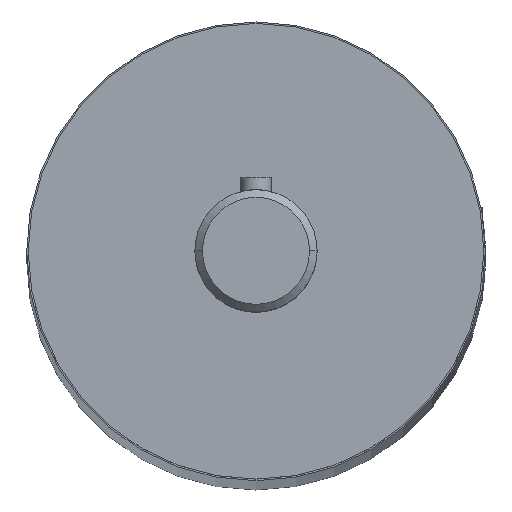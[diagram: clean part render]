
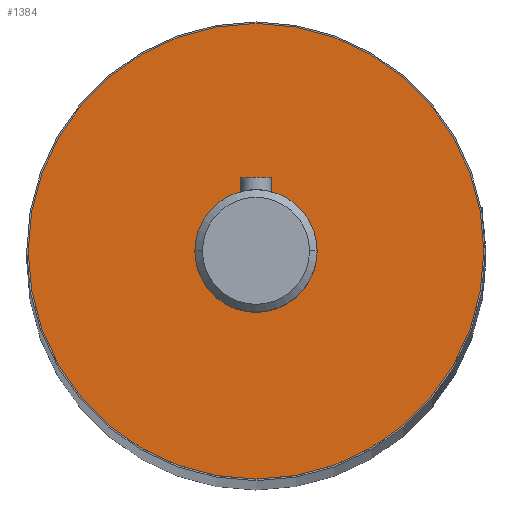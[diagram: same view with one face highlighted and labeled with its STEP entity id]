
A CAD part, top view. The second image highlights one B-rep face of the part: STEP entity #1384.
In plain terms, the highlighted planar face has unit normal (0, 0, 1).
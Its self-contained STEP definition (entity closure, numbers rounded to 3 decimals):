
#61 = DIRECTION ( 'NONE',  ( 0., 0., 1. ) ) ;
#94 = ORIENTED_EDGE ( 'NONE', *, *, #1093, .T. ) ;
#229 = AXIS2_PLACEMENT_3D ( 'NONE', #1827, #1538, #351 ) ;
#301 = CIRCLE ( 'NONE', #1404, 14.9 ) ;
#306 = PLANE ( 'NONE',  #229 ) ;
#344 = EDGE_CURVE ( 'NONE', #1297, #1131, #1405, .T. ) ;
#351 = DIRECTION ( 'NONE',  ( 1., 0., 0. ) ) ;
#353 = AXIS2_PLACEMENT_3D ( 'NONE', #1381, #648, #1536 ) ;
#355 = CARTESIAN_POINT ( 'NONE',  ( 14.9, 0., 177.5 ) ) ;
#366 = CARTESIAN_POINT ( 'NONE',  ( -14.9, 0., 177.5 ) ) ;
#470 = DIRECTION ( 'NONE',  ( 1., 0., 0. ) ) ;
#576 = ORIENTED_EDGE ( 'NONE', *, *, #344, .F. ) ;
#584 = VERTEX_POINT ( 'NONE', #366 ) ;
#648 = DIRECTION ( 'NONE',  ( 0., 0., 1. ) ) ;
#680 = CIRCLE ( 'NONE', #835, 14.9 ) ;
#709 = CARTESIAN_POINT ( 'NONE',  ( 0., 0., 177.5 ) ) ;
#717 = ORIENTED_EDGE ( 'NONE', *, *, #792, .T. ) ;
#771 = DIRECTION ( 'NONE',  ( 0., 0., 1. ) ) ;
#792 = EDGE_CURVE ( 'NONE', #912, #584, #680, .T. ) ;
#816 = DIRECTION ( 'NONE',  ( 1., 0., 0. ) ) ;
#835 = AXIS2_PLACEMENT_3D ( 'NONE', #923, #771, #470 ) ;
#912 = VERTEX_POINT ( 'NONE', #355 ) ;
#923 = CARTESIAN_POINT ( 'NONE',  ( 0., 0., 177.5 ) ) ;
#986 = ORIENTED_EDGE ( 'NONE', *, *, #1793, .F. ) ;
#1093 = EDGE_CURVE ( 'NONE', #584, #912, #301, .T. ) ;
#1131 = VERTEX_POINT ( 'NONE', #1183 ) ;
#1183 = CARTESIAN_POINT ( 'NONE',  ( 4., 0., 177.5 ) ) ;
#1297 = VERTEX_POINT ( 'NONE', #1804 ) ;
#1315 = DIRECTION ( 'NONE',  ( 0., 0., 1. ) ) ;
#1381 = CARTESIAN_POINT ( 'NONE',  ( 0., 0., 177.5 ) ) ;
#1384 = ADVANCED_FACE ( 'NONE', ( #1791, #1656 ), #306, .T. ) ;
#1401 = EDGE_LOOP ( 'NONE', ( #94, #717 ) ) ;
#1404 = AXIS2_PLACEMENT_3D ( 'NONE', #709, #1315, #1909 ) ;
#1405 = CIRCLE ( 'NONE', #1610, 4. ) ;
#1409 = CARTESIAN_POINT ( 'NONE',  ( 0., 0., 177.5 ) ) ;
#1480 = CIRCLE ( 'NONE', #353, 4. ) ;
#1536 = DIRECTION ( 'NONE',  ( 1., 0., 0. ) ) ;
#1538 = DIRECTION ( 'NONE',  ( 0., 0., 1. ) ) ;
#1610 = AXIS2_PLACEMENT_3D ( 'NONE', #1409, #61, #816 ) ;
#1656 = FACE_OUTER_BOUND ( 'NONE', #1401, .T. ) ;
#1677 = EDGE_LOOP ( 'NONE', ( #576, #986 ) ) ;
#1791 = FACE_BOUND ( 'NONE', #1677, .T. ) ;
#1793 = EDGE_CURVE ( 'NONE', #1131, #1297, #1480, .T. ) ;
#1804 = CARTESIAN_POINT ( 'NONE',  ( -4., 0., 177.5 ) ) ;
#1827 = CARTESIAN_POINT ( 'NONE',  ( 0., 0., 177.5 ) ) ;
#1909 = DIRECTION ( 'NONE',  ( 1., 0., 0. ) ) ;
